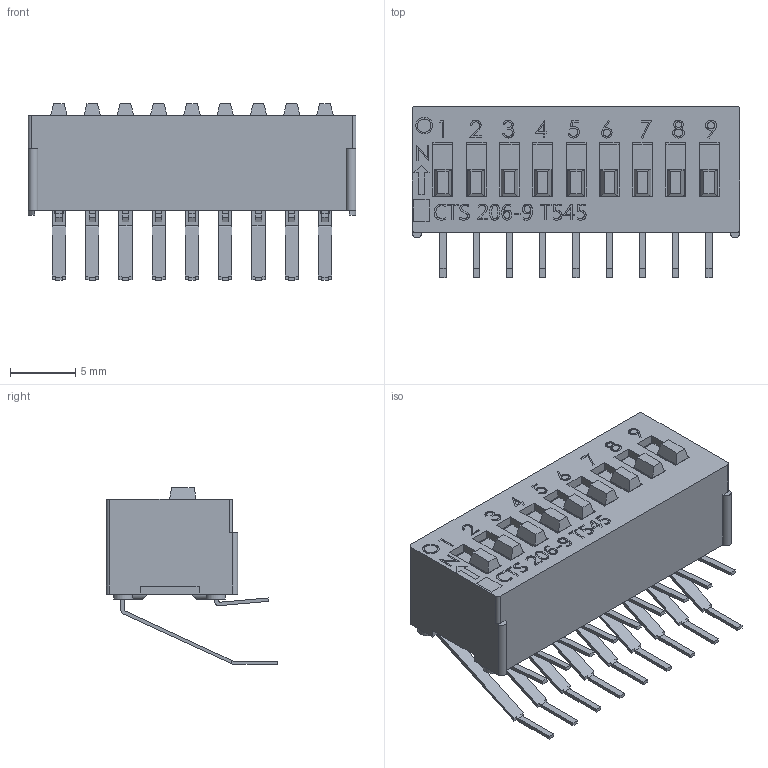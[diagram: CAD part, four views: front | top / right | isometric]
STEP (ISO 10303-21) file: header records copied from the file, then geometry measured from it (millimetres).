
FILE_DESCRIPTION (( 'STEP AP214' ), '1' );
FILE_NAME ('206-9RA.STEP', '2019-05-24T06:59:24', ( '' ), ( '' ), 'SwSTEP 2.0', 'SolidWorks 2019', '' );
FILE_SCHEMA (( 'AUTOMOTIVE_DESIGN' ));
Length unit declared in the file: millimetre
Products named in the file (4): 206-40-239-40-01(SPST-RA); 206-56-014-35-01; 206009RAS- Base assly; 206-9RA
Assembly tree (11 placements, depth 2):
  206-9RA
    206-40-239-40-01(SPST-RA)
    206-56-014-35-01  x9
    206009RAS- Base assly
Bounding box: 25.04 x 13.08 x 13.5 mm (x, y, z)
Volume: 1093 mm3; surface area: 3506.7 mm2
Topology: 11 solids, 11 shells, 972 faces, 2614 edges, 1726 vertices
Faces by surface type: plane 700, bspline 148, cylinder 124
Entity records: 29412 total; most frequent: CARTESIAN_POINT 12838, ORIENTED_EDGE 3612, DIRECTION 2700, EDGE_CURVE 1806, LINE 1380, VECTOR 1380, VERTEX_POINT 1198, EDGE_LOOP 742
